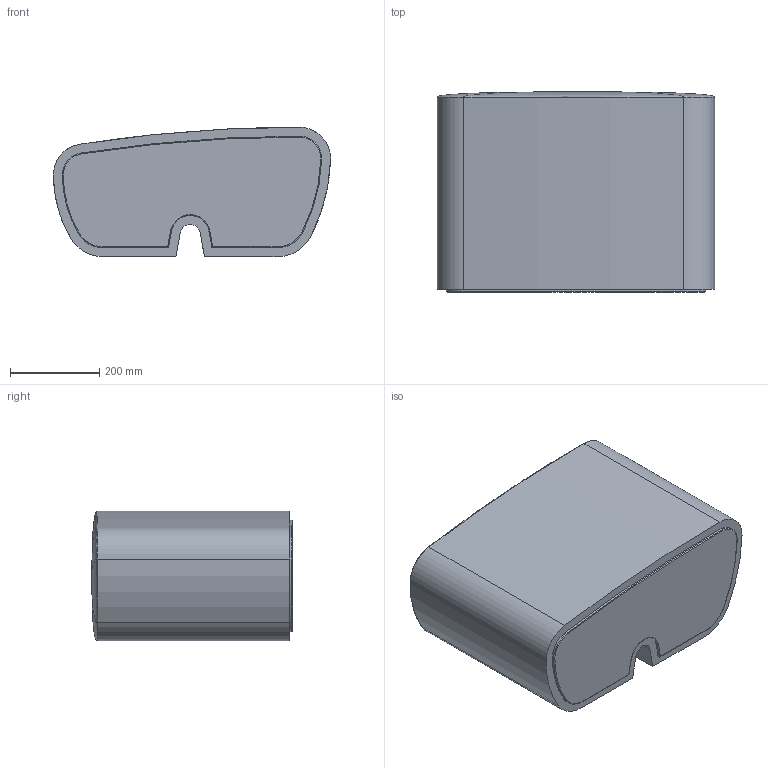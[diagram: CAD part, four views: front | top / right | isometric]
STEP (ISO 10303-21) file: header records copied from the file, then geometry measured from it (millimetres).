
FILE_DESCRIPTION (( 'STEP AP203' ), '1' );
FILE_NAME ('POUF.STEP', '2016-07-29T09:45:04', ( '' ), ( '' ), 'SwSTEP 2.0', 'SolidWorks 2013', '' );
FILE_SCHEMA (( 'CONFIG_CONTROL_DESIGN' ));
Length unit declared in the file: millimetre
Products named in the file (1): POUF
Bounding box: 620.01 x 448 x 290 mm (x, y, z)
Volume: 69128093.4 mm3; surface area: 1059128.6 mm2
Topology: 1 solids, 1 shells, 49 faces, 121 edges, 67 vertices
Faces by surface type: cylinder 23, plane 10, bspline 8, torus 8
Entity records: 1615 total; most frequent: CARTESIAN_POINT 448, DIRECTION 237, ORIENTED_EDGE 226, EDGE_CURVE 113, AXIS2_PLACEMENT_3D 96, VERTEX_POINT 67, CIRCLE 54, EDGE_LOOP 50
